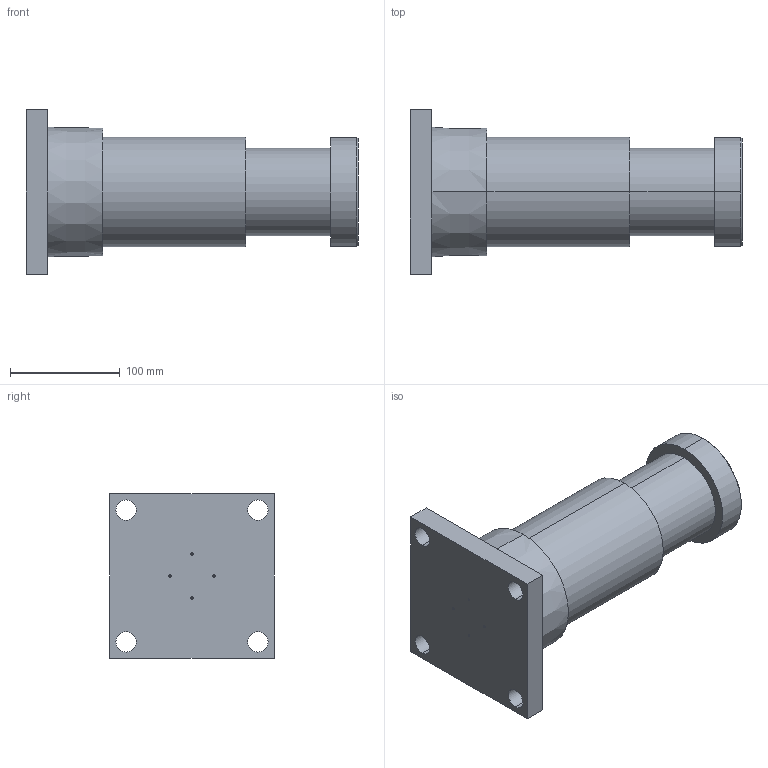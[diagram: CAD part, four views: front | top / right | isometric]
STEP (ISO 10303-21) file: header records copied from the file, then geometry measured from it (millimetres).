
FILE_DESCRIPTION (( 'STEP AP214' ), '1' );
FILE_NAME ('LDH100X50FR.STEP', '2019-01-21T04:57:21', ( 'user' ), ( 'Microsoft' ), 'SwSTEP 2.0', 'SolidWorks 2016', '' );
FILE_SCHEMA (( 'AUTOMOTIVE_DESIGN' ));
Length unit declared in the file: millimetre
Products named in the file (1): LDH100X50FR
Bounding box: 302 x 150 x 150 mm (x, y, z)
Volume: 2565001.1 mm3; surface area: 151169.6 mm2
Topology: 1 solids, 1 shells, 40 faces, 88 edges, 58 vertices
Faces by surface type: cylinder 22, plane 14, cone 4
Entity records: 1176 total; most frequent: DIRECTION 220, CARTESIAN_POINT 187, ORIENTED_EDGE 176, AXIS2_PLACEMENT_3D 91, EDGE_CURVE 88, VERTEX_POINT 58, EDGE_LOOP 56, CIRCLE 50
